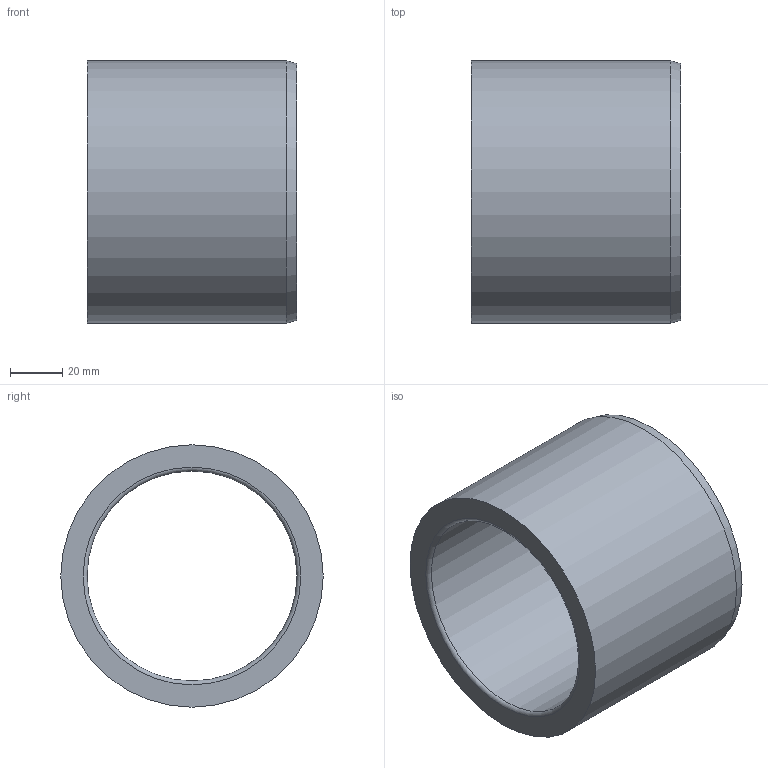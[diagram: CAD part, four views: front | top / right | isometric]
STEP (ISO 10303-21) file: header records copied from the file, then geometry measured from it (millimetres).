
FILE_DESCRIPTION(/* description */ ('Impex Ready, www.impex-ready.pl'),/* implementation_level */ '2;1');
FILE_NAME(/* name */ 'C:\Users\VIKKY\Nextcloud\SM\projekt 10 - części na stronę internetową\Pliki_3D_new\306 Tuleje BG04\306_BG04_STEP\BG04.8010080.ipt.step',/* time_stamp */ '2021-12-17T16:38:10+01:00',/* author */ ('SM'),/* organization */ (''),/* preprocessor_version */ 'ST-DEVELOPER v18.1',/* originating_system */ 'Autodesk Inventor 2021',/* authorisation */ '');
FILE_SCHEMA (('AUTOMOTIVE_DESIGN { 1 0 10303 214 3 1 1 }'));
Length unit declared in the file: millimetre
Products named in the file (1): BG04.8010080
Bounding box: 80 x 100 x 100 mm (x, y, z)
Volume: 225281.3 mm3; surface area: 50269.5 mm2
Topology: 1 solids, 1 shells, 7 faces, 14 edges, 9 vertices
Faces by surface type: torus 2, cylinder 2, plane 2, cone 1
Full cylindrical faces by diameter (mm): 80 x1, 100 x1
Entity records: 261 total; most frequent: DIRECTION 41, CARTESIAN_POINT 31, ORIENTED_EDGE 28, AXIS2_PLACEMENT_3D 19, EDGE_CURVE 14, CIRCLE 11, EDGE_LOOP 9, VERTEX_POINT 9
